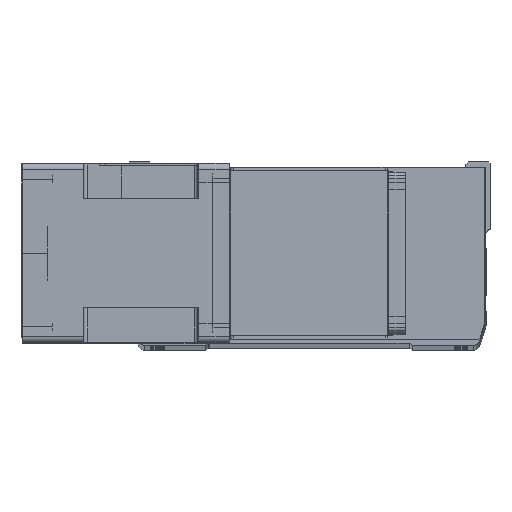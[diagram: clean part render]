
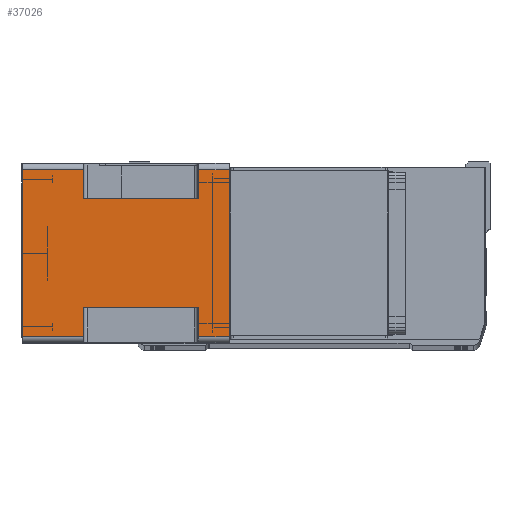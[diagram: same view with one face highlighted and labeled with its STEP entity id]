
A CAD part, top view. The second image highlights one B-rep face of the part: STEP entity #37026.
In plain terms, the highlighted planar face has unit normal (0, 0, 1) as drawn and (-1, 0, 0) by its records, which use the part's own axes.
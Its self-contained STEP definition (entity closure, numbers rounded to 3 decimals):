
#775 = EDGE_CURVE ( 'NONE', #14392, #11836, #17361, .T. ) ;
#1296 = ORIENTED_EDGE ( 'NONE', *, *, #36432, .T. ) ;
#1569 = VERTEX_POINT ( 'NONE', #40173 ) ;
#2347 = DIRECTION ( 'NONE',  ( -1., 0., 0. ) ) ;
#3036 = VERTEX_POINT ( 'NONE', #24177 ) ;
#3289 = VECTOR ( 'NONE', #42944, 1000. ) ;
#3636 = LINE ( 'NONE', #19822, #28261 ) ;
#4017 = CARTESIAN_POINT ( 'NONE',  ( -71., -66., -115.5 ) ) ;
#4390 = CARTESIAN_POINT ( 'NONE',  ( -71., -66., 0. ) ) ;
#5073 = VECTOR ( 'NONE', #10313, 1000. ) ;
#5639 = DIRECTION ( 'NONE',  ( 0., -1., 0. ) ) ;
#5778 = DIRECTION ( 'NONE',  ( 0., -1., 0. ) ) ;
#6228 = EDGE_CURVE ( 'NONE', #37476, #1569, #42727, .T. ) ;
#6712 = EDGE_CURVE ( 'NONE', #25703, #45188, #17485, .T. ) ;
#6973 = EDGE_CURVE ( 'NONE', #25703, #24973, #43236, .T. ) ;
#7125 = ORIENTED_EDGE ( 'NONE', *, *, #28953, .T. ) ;
#7211 = LINE ( 'NONE', #35565, #3289 ) ;
#8584 = LINE ( 'NONE', #4017, #45618 ) ;
#8834 = CARTESIAN_POINT ( 'NONE',  ( -71., -66., -164. ) ) ;
#9445 = EDGE_CURVE ( 'NONE', #14758, #3036, #3636, .T. ) ;
#9681 = DIRECTION ( 'NONE',  ( 0., 0., 1. ) ) ;
#9876 = CARTESIAN_POINT ( 'NONE',  ( -71., -66., -164. ) ) ;
#10139 = LINE ( 'NONE', #20823, #28024 ) ;
#10313 = DIRECTION ( 'NONE',  ( 0., -1., 0. ) ) ;
#11513 = CARTESIAN_POINT ( 'NONE',  ( -71., -66., -115.5 ) ) ;
#11768 = CARTESIAN_POINT ( 'NONE',  ( -71., 43., -115.5 ) ) ;
#11836 = VERTEX_POINT ( 'NONE', #11513 ) ;
#12016 = CARTESIAN_POINT ( 'NONE',  ( -71., 66., -115.5 ) ) ;
#12900 = DIRECTION ( 'NONE',  ( 0., 0., -1. ) ) ;
#13084 = ORIENTED_EDGE ( 'NONE', *, *, #6973, .T. ) ;
#13353 = ORIENTED_EDGE ( 'NONE', *, *, #6228, .F. ) ;
#13426 = LINE ( 'NONE', #15489, #27349 ) ;
#13530 = PLANE ( 'NONE',  #21419 ) ;
#14392 = VERTEX_POINT ( 'NONE', #8834 ) ;
#14758 = VERTEX_POINT ( 'NONE', #29748 ) ;
#15489 = CARTESIAN_POINT ( 'NONE',  ( -71., -66., 0. ) ) ;
#16324 = VERTEX_POINT ( 'NONE', #12016 ) ;
#16539 = EDGE_LOOP ( 'NONE', ( #25947, #35917, #46378, #13084, #30243, #24074, #40823, #7125, #13353, #1296, #23492, #34859 ) ) ;
#16917 = EDGE_CURVE ( 'NONE', #24973, #46190, #7211, .T. ) ;
#17361 = LINE ( 'NONE', #36900, #24598 ) ;
#17404 = EDGE_CURVE ( 'NONE', #43332, #16324, #10139, .T. ) ;
#17432 = CARTESIAN_POINT ( 'NONE',  ( -71., 43., -164. ) ) ;
#17485 = LINE ( 'NONE', #27048, #35410 ) ;
#17591 = DIRECTION ( 'NONE',  ( 0., 0., 1. ) ) ;
#19822 = CARTESIAN_POINT ( 'NONE',  ( -71., 66., -164. ) ) ;
#20823 = CARTESIAN_POINT ( 'NONE',  ( -71., 66., -164. ) ) ;
#21419 = AXIS2_PLACEMENT_3D ( 'NONE', #9876, #2347, #5639 ) ;
#22394 = DIRECTION ( 'NONE',  ( 0., 1., 0. ) ) ;
#23492 = ORIENTED_EDGE ( 'NONE', *, *, #17404, .F. ) ;
#23853 = DIRECTION ( 'NONE',  ( 0., 1., 0. ) ) ;
#24074 = ORIENTED_EDGE ( 'NONE', *, *, #25014, .F. ) ;
#24177 = CARTESIAN_POINT ( 'NONE',  ( -71., 66., 0. ) ) ;
#24361 = VECTOR ( 'NONE', #40603, 1000. ) ;
#24598 = VECTOR ( 'NONE', #43479, 1000. ) ;
#24973 = VERTEX_POINT ( 'NONE', #29720 ) ;
#25014 = EDGE_CURVE ( 'NONE', #3036, #46190, #13426, .T. ) ;
#25464 = CARTESIAN_POINT ( 'NONE',  ( -71., 66., -164. ) ) ;
#25703 = VERTEX_POINT ( 'NONE', #35249 ) ;
#25947 = ORIENTED_EDGE ( 'NONE', *, *, #775, .T. ) ;
#26236 = VECTOR ( 'NONE', #5778, 1000. ) ;
#27048 = CARTESIAN_POINT ( 'NONE',  ( -71., -43., -164. ) ) ;
#27349 = VECTOR ( 'NONE', #29556, 1000. ) ;
#28024 = VECTOR ( 'NONE', #9681, 1000. ) ;
#28261 = VECTOR ( 'NONE', #34546, 1000. ) ;
#28449 = CARTESIAN_POINT ( 'NONE',  ( -71., -66., -24.5 ) ) ;
#28953 = EDGE_CURVE ( 'NONE', #14758, #1569, #30549, .T. ) ;
#29556 = DIRECTION ( 'NONE',  ( 0., -1., 0. ) ) ;
#29720 = CARTESIAN_POINT ( 'NONE',  ( -71., -66., -24.5 ) ) ;
#29748 = CARTESIAN_POINT ( 'NONE',  ( -71., 66., -24.5 ) ) ;
#30243 = ORIENTED_EDGE ( 'NONE', *, *, #16917, .T. ) ;
#30549 = LINE ( 'NONE', #33550, #24361 ) ;
#30915 = CARTESIAN_POINT ( 'NONE',  ( -71., -43., -115.5 ) ) ;
#31111 = FACE_OUTER_BOUND ( 'NONE', #16539, .T. ) ;
#31691 = VECTOR ( 'NONE', #23853, 1000. ) ;
#31722 = EDGE_CURVE ( 'NONE', #43332, #14392, #46457, .T. ) ;
#33550 = CARTESIAN_POINT ( 'NONE',  ( -71., 43., -24.5 ) ) ;
#34546 = DIRECTION ( 'NONE',  ( 0., 0., 1. ) ) ;
#34859 = ORIENTED_EDGE ( 'NONE', *, *, #31722, .T. ) ;
#34899 = VECTOR ( 'NONE', #17591, 1000. ) ;
#35249 = CARTESIAN_POINT ( 'NONE',  ( -71., -43., -24.5 ) ) ;
#35300 = CARTESIAN_POINT ( 'NONE',  ( -71., -43., -115.5 ) ) ;
#35410 = VECTOR ( 'NONE', #12900, 1000. ) ;
#35565 = CARTESIAN_POINT ( 'NONE',  ( -71., -66., -164. ) ) ;
#35917 = ORIENTED_EDGE ( 'NONE', *, *, #36090, .T. ) ;
#36090 = EDGE_CURVE ( 'NONE', #11836, #45188, #41755, .T. ) ;
#36432 = EDGE_CURVE ( 'NONE', #37476, #16324, #8584, .T. ) ;
#36900 = CARTESIAN_POINT ( 'NONE',  ( -71., -66., -164. ) ) ;
#37026 = ADVANCED_FACE ( 'NONE', ( #31111 ), #13530, .T. ) ;
#37476 = VERTEX_POINT ( 'NONE', #11768 ) ;
#40173 = CARTESIAN_POINT ( 'NONE',  ( -71., 43., -24.5 ) ) ;
#40603 = DIRECTION ( 'NONE',  ( 0., -1., 0. ) ) ;
#40823 = ORIENTED_EDGE ( 'NONE', *, *, #9445, .F. ) ;
#41755 = LINE ( 'NONE', #30915, #31691 ) ;
#42727 = LINE ( 'NONE', #17432, #34899 ) ;
#42944 = DIRECTION ( 'NONE',  ( 0., 0., 1. ) ) ;
#43236 = LINE ( 'NONE', #28449, #5073 ) ;
#43332 = VERTEX_POINT ( 'NONE', #25464 ) ;
#43479 = DIRECTION ( 'NONE',  ( 0., 0., 1. ) ) ;
#44991 = CARTESIAN_POINT ( 'NONE',  ( -71., -66., -164. ) ) ;
#45188 = VERTEX_POINT ( 'NONE', #35300 ) ;
#45618 = VECTOR ( 'NONE', #22394, 1000. ) ;
#46190 = VERTEX_POINT ( 'NONE', #4390 ) ;
#46378 = ORIENTED_EDGE ( 'NONE', *, *, #6712, .F. ) ;
#46457 = LINE ( 'NONE', #44991, #26236 ) ;
